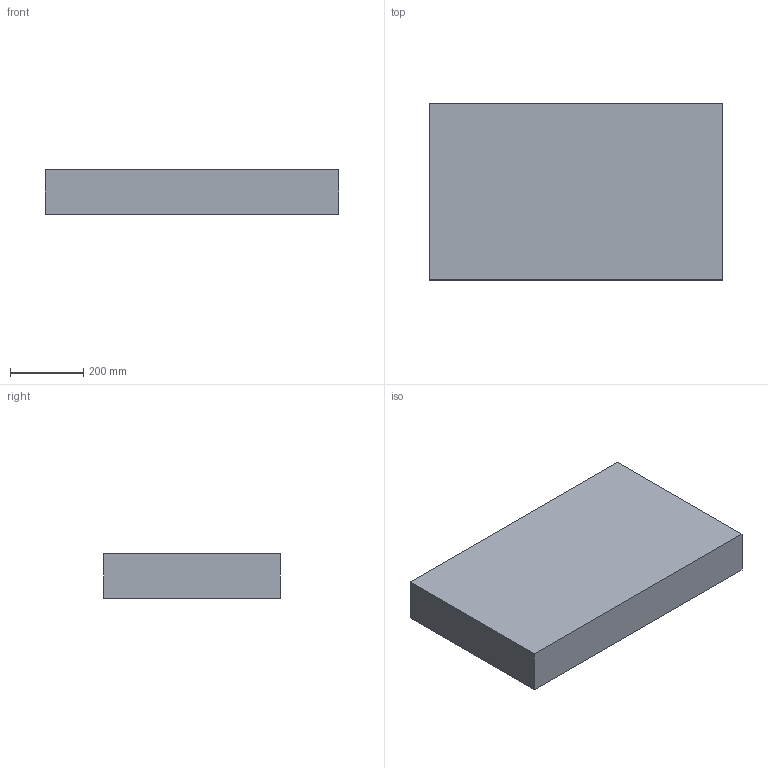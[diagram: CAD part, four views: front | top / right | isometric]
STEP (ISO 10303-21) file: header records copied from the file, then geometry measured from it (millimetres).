
FILE_DESCRIPTION(/* description */ (''),/* implementation_level */ '2;1');
FILE_NAME(/* name */ 'EG Plan 800.stp',/* time_stamp */ '2024-09-27T11:35:40+02:00',/* author */ ('d.streicher'),/* organization */ (''),/* preprocessor_version */ 'ST-DEVELOPER v20',/* originating_system */ 'Autodesk Inventor 2025',/* authorisation */ '');
FILE_SCHEMA (('AUTOMOTIVE_DESIGN { 1 0 10303 214 3 1 1 }'));
Length unit declared in the file: millimetre
Products named in the file (1): EG Plan 800
Bounding box: 800 x 480 x 120 mm (x, y, z)
Volume: 7998830.5 mm3; surface area: 1621605.7 mm2
Topology: 1 solids, 1 shells, 26 faces, 66 edges, 44 vertices
Faces by surface type: plane 16, cylinder 10
Full cylindrical faces by diameter (mm): 3 x6
Entity records: 890 total; most frequent: DIRECTION 140, CARTESIAN_POINT 137, ORIENTED_EDGE 132, EDGE_CURVE 66, AXIS2_PLACEMENT_3D 47, LINE 46, VECTOR 46, VERTEX_POINT 44
